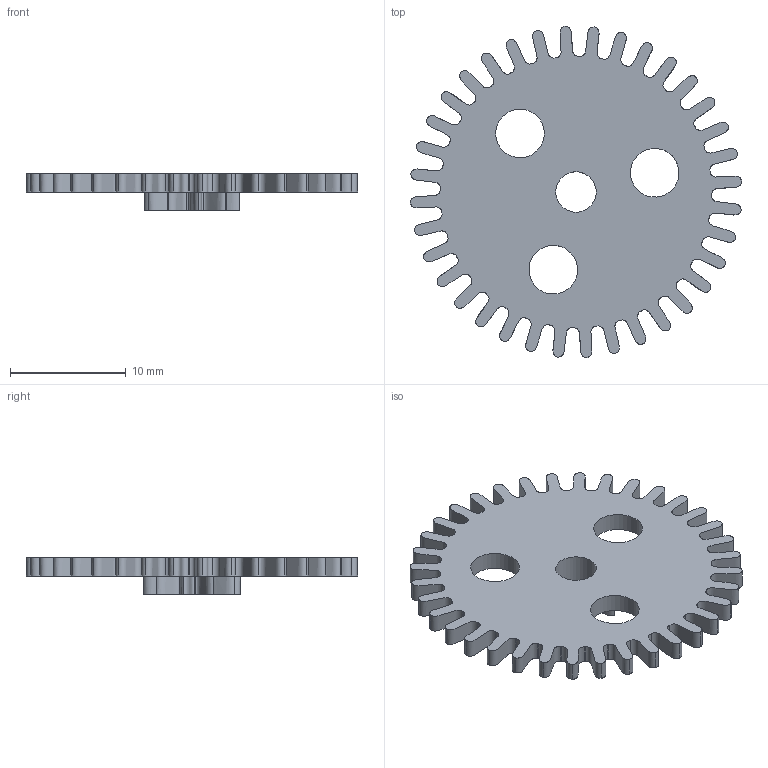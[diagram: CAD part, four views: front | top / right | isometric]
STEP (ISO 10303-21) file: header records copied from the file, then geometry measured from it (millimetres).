
FILE_DESCRIPTION(/* description */ (''),/* implementation_level */ '2;1');
FILE_NAME(/* name */ 'D:\Desktop\WatchCAdFiles\print2endTime\3.5\Solid6.stp',/* time_stamp */ '2019-05-02T16:57:09+02:00',/* author */ ('fkhad'),/* organization */ (''),/* preprocessor_version */ 'ST-DEVELOPER v17',/* originating_system */ 'Autodesk Inventor 2018',/* authorisation */ '');
FILE_SCHEMA (('AUTOMOTIVE_DESIGN { 1 0 10303 214 3 1 1 }'));
Length unit declared in the file: inch
Products named in the file (1): Solid6
Bounding box: 28.64 x 28.64 x 3.15 mm (x, y, z)
Volume: 778.5 mm3; surface area: 1486.5 mm2
Topology: 1 solids, 1 shells, 145 faces, 434 edges, 292 vertices
Faces by surface type: bspline 92, cylinder 50, plane 3
Full cylindrical faces by diameter (mm): 3.5 x1, 4.2 x3
Entity records: 6973 total; most frequent: CARTESIAN_POINT 3380, ORIENTED_EDGE 868, DIRECTION 466, EDGE_CURVE 434, VERTEX_POINT 292, B_SPLINE_CURVE_WITH_KNOTS 184, AXIS2_PLACEMENT_3D 162, EDGE_LOOP 154
